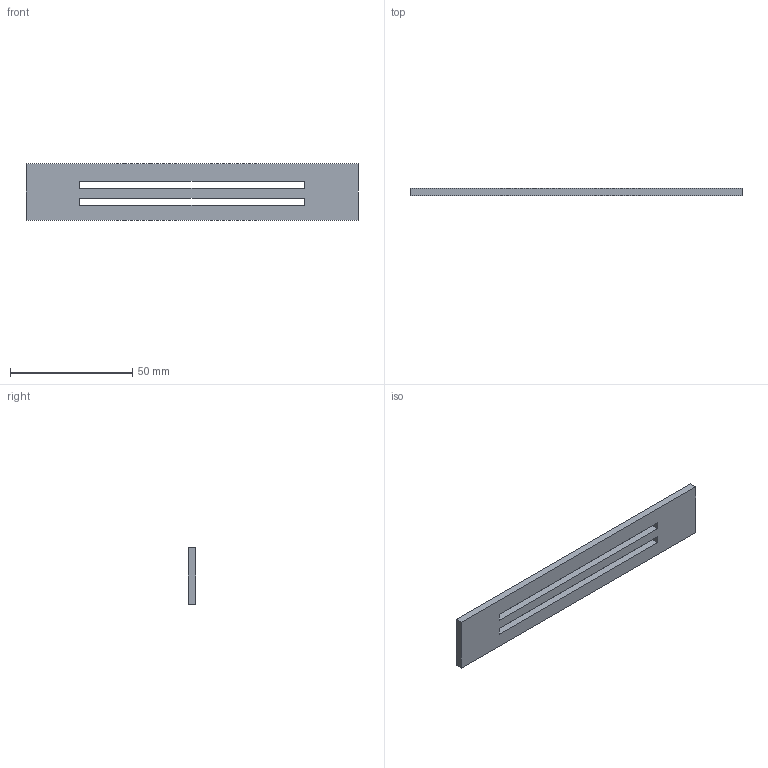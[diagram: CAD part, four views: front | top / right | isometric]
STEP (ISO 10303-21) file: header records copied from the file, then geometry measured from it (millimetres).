
FILE_DESCRIPTION(('FreeCAD Model'),'2;1');
FILE_NAME('Open CASCADE Shape Model','2026-10-12T22:45:25',('FreeCAD'),( 'FreeCAD'),'Open CASCADE STEP processor 7.8','FreeCAD','Unknown');
FILE_SCHEMA(('AUTOMOTIVE_DESIGN { 1 0 10303 214 1 1 1 1 }'));
Length unit declared in the file: millimetre
Products named in the file (1): Open CASCADE STEP translator 7.8 9
Bounding box: 136 x 3 x 23 mm (x, y, z)
Volume: 7728 mm3; surface area: 7246 mm2
Topology: 1 solids, 1 shells, 14 faces, 36 edges, 24 vertices
Faces by surface type: plane 14
Entity records: 438 total; most frequent: CARTESIAN_POINT 75, ORIENTED_EDGE 72, DIRECTION 66, EDGE_CURVE 36, LINE 36, VECTOR 36, VERTEX_POINT 24, FACE_BOUND 18
